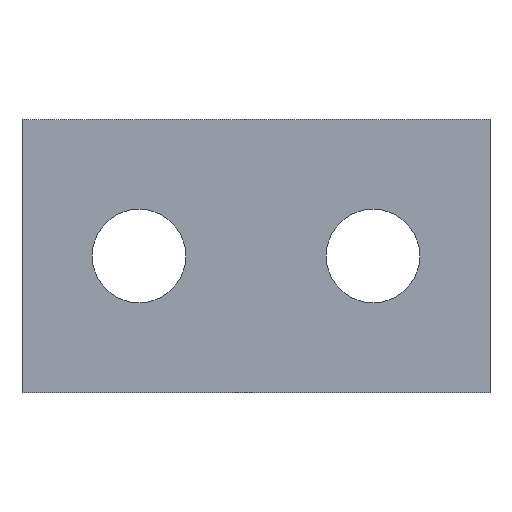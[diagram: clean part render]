
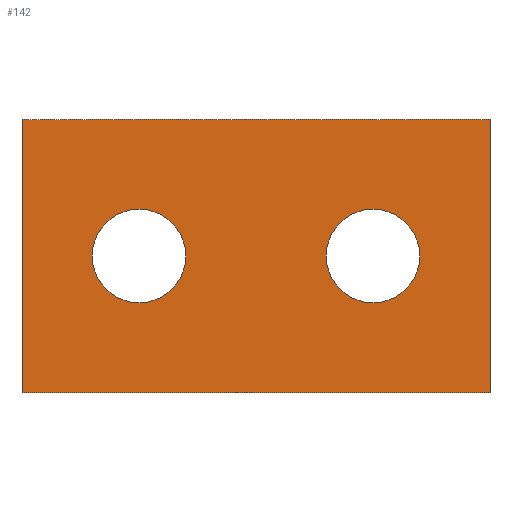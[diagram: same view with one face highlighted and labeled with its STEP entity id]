
A CAD part, left-side view. The second image highlights one B-rep face of the part: STEP entity #142.
In plain terms, the highlighted planar face has unit normal (-1, 0, 0).
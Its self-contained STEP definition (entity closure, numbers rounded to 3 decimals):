
#1 = ORIENTED_EDGE ( 'NONE', *, *, #85, .F. ) ;
#3 = EDGE_CURVE ( 'NONE', #255, #163, #22, .T. ) ;
#4 = EDGE_LOOP ( 'NONE', ( #76 ) ) ;
#8 = CARTESIAN_POINT ( 'NONE',  ( -5., -30., 0. ) ) ;
#22 = LINE ( 'NONE', #239, #52 ) ;
#23 = VECTOR ( 'NONE', #181, 1000. ) ;
#24 = ORIENTED_EDGE ( 'NONE', *, *, #3, .T. ) ;
#25 = EDGE_CURVE ( 'NONE', #273, #273, #102, .T. ) ;
#38 = DIRECTION ( 'NONE',  ( 0., -1., 0. ) ) ;
#40 = DIRECTION ( 'NONE',  ( 0., 0., -1. ) ) ;
#41 = DIRECTION ( 'NONE',  ( 1., 0., 0. ) ) ;
#52 = VECTOR ( 'NONE', #288, 1000. ) ;
#65 = VERTEX_POINT ( 'NONE', #135 ) ;
#66 = CARTESIAN_POINT ( 'NONE',  ( -5., 15., -23.5 ) ) ;
#76 = ORIENTED_EDGE ( 'NONE', *, *, #25, .T. ) ;
#79 = LINE ( 'NONE', #224, #149 ) ;
#82 = FACE_BOUND ( 'NONE', #254, .T. ) ;
#85 = EDGE_CURVE ( 'NONE', #173, #143, #270, .T. ) ;
#91 = ORIENTED_EDGE ( 'NONE', *, *, #303, .T. ) ;
#96 = AXIS2_PLACEMENT_3D ( 'NONE', #148, #98, #220 ) ;
#97 = ORIENTED_EDGE ( 'NONE', *, *, #240, .F. ) ;
#98 = DIRECTION ( 'NONE',  ( 1., 0., 0. ) ) ;
#102 = CIRCLE ( 'NONE', #123, 6. ) ;
#103 = FACE_OUTER_BOUND ( 'NONE', #260, .T. ) ;
#123 = AXIS2_PLACEMENT_3D ( 'NONE', #174, #214, #213 ) ;
#135 = CARTESIAN_POINT ( 'NONE',  ( -5., -15., -23.5 ) ) ;
#142 = ADVANCED_FACE ( 'NONE', ( #226, #82, #103 ), #219, .F. ) ;
#143 = VERTEX_POINT ( 'NONE', #8 ) ;
#148 = CARTESIAN_POINT ( 'NONE',  ( -5., 30., 0. ) ) ;
#149 = VECTOR ( 'NONE', #243, 1000. ) ;
#152 = EDGE_CURVE ( 'NONE', #163, #143, #177, .T. ) ;
#156 = CARTESIAN_POINT ( 'NONE',  ( -5., -30., -35. ) ) ;
#163 = VERTEX_POINT ( 'NONE', #156 ) ;
#173 = VERTEX_POINT ( 'NONE', #250 ) ;
#174 = CARTESIAN_POINT ( 'NONE',  ( -5., 15., -17.5 ) ) ;
#177 = LINE ( 'NONE', #268, #23 ) ;
#181 = DIRECTION ( 'NONE',  ( 0., 0., 1. ) ) ;
#207 = CARTESIAN_POINT ( 'NONE',  ( -5., 30., 0. ) ) ;
#210 = CARTESIAN_POINT ( 'NONE',  ( -5., -15., -17.5 ) ) ;
#213 = DIRECTION ( 'NONE',  ( 0., 0., -1. ) ) ;
#214 = DIRECTION ( 'NONE',  ( 1., 0., 0. ) ) ;
#215 = AXIS2_PLACEMENT_3D ( 'NONE', #210, #41, #40 ) ;
#219 = PLANE ( 'NONE',  #96 ) ;
#220 = DIRECTION ( 'NONE',  ( 0., 0., -1. ) ) ;
#224 = CARTESIAN_POINT ( 'NONE',  ( -5., 30., 0. ) ) ;
#226 = FACE_BOUND ( 'NONE', #4, .T. ) ;
#239 = CARTESIAN_POINT ( 'NONE',  ( -5., 30., -35. ) ) ;
#240 = EDGE_CURVE ( 'NONE', #255, #173, #79, .T. ) ;
#243 = DIRECTION ( 'NONE',  ( 0., 0., 1. ) ) ;
#250 = CARTESIAN_POINT ( 'NONE',  ( -5., 30., 0. ) ) ;
#254 = EDGE_LOOP ( 'NONE', ( #91 ) ) ;
#255 = VERTEX_POINT ( 'NONE', #296 ) ;
#260 = EDGE_LOOP ( 'NONE', ( #304, #1, #97, #24 ) ) ;
#268 = CARTESIAN_POINT ( 'NONE',  ( -5., -30., 0. ) ) ;
#270 = LINE ( 'NONE', #207, #276 ) ;
#273 = VERTEX_POINT ( 'NONE', #66 ) ;
#276 = VECTOR ( 'NONE', #38, 1000. ) ;
#288 = DIRECTION ( 'NONE',  ( 0., -1., 0. ) ) ;
#296 = CARTESIAN_POINT ( 'NONE',  ( -5., 30., -35. ) ) ;
#297 = CIRCLE ( 'NONE', #215, 6. ) ;
#303 = EDGE_CURVE ( 'NONE', #65, #65, #297, .T. ) ;
#304 = ORIENTED_EDGE ( 'NONE', *, *, #152, .T. ) ;
